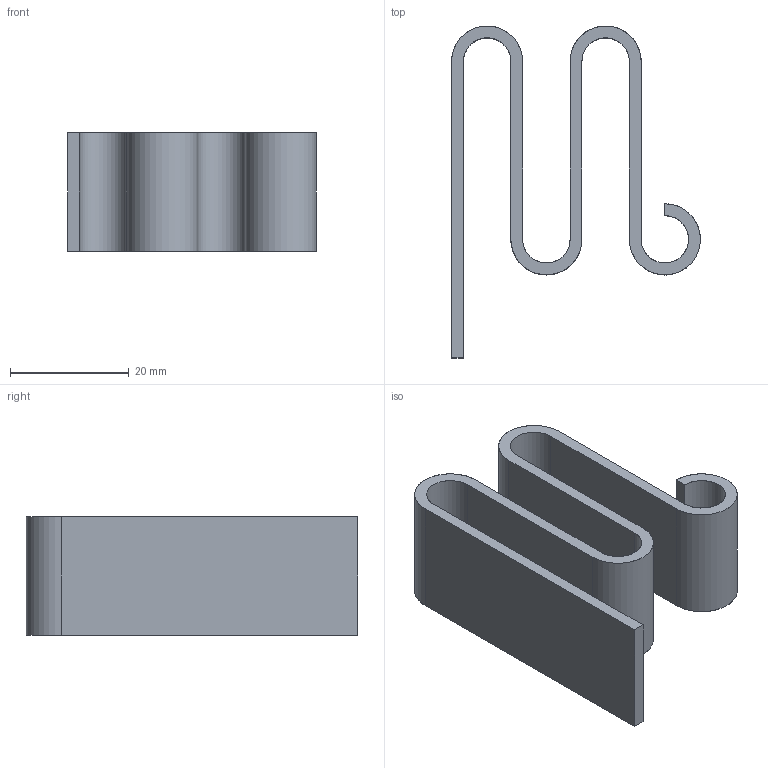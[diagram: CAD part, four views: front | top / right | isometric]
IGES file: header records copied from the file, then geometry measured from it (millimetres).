
Start section: SolidWorks IGES file using analytic representation for surfaces
Global section: file name: D:\Autodesk Simulation Manuscript\c03_Autodesk-Simulation\exe01.IGS; native system: SolidWorks 2012; preprocessor: SolidWorks 2012; author: Sham-2011B; date: 120602.155205; units: millimetre
Bounding box: 42 x 56 x 20 mm (x, y, z)
Surface area: 9350.2 mm2 (no closed solid volume)
Topology: 0 solids, 0 shells, 20 faces, 412 edges, 412 vertices
Faces by surface type: bspline 12, revolution 8
